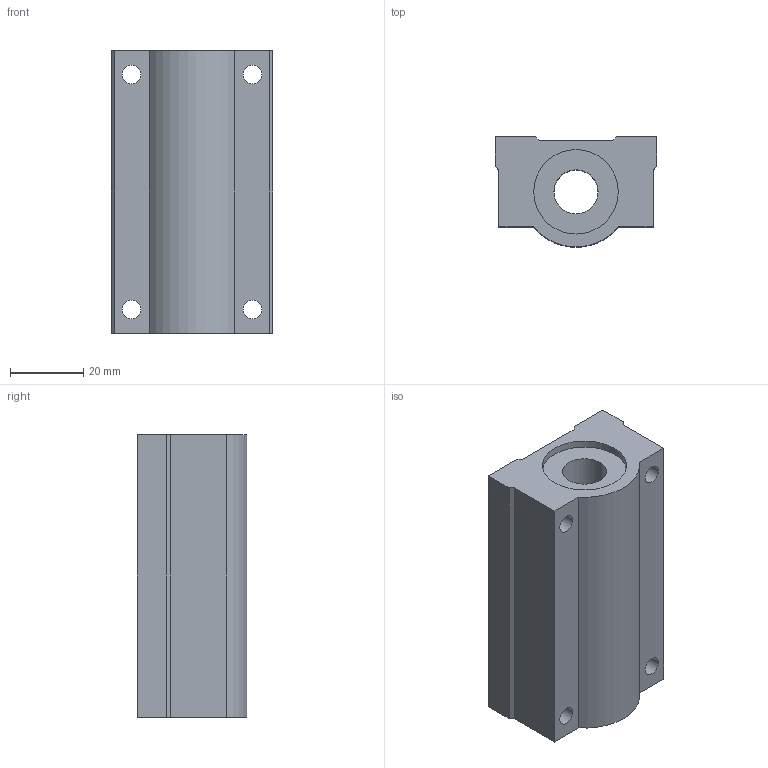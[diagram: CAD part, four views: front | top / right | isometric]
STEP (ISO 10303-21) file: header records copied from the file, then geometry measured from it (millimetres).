
FILE_DESCRIPTION((''),'2;1');
FILE_NAME('C:\Documents and Settings\ｿﾀﾀ蠑ｷ1\ｹﾙﾅﾁ ﾈｭｸ饅\ｺﾎﾇｰﾆﾄﾀﾏ\ﾁｦﾇｰ\SCE__WUU\SCE12WUU.stp','2005-06-22T15:47:25',('ｿﾀﾀ蠑ｷ1'),(''),'Autodesk Inventor 9','Autodesk Inventor 9','');
FILE_SCHEMA(('AUTOMOTIVE_DESIGN { 1 0 10303 214 1 1 1 1 }'));
Length unit declared in the file: millimetre
Products named in the file (1): SCE__UU
Bounding box: 44 x 29.95 x 77 mm (x, y, z)
Volume: 73923.2 mm3; surface area: 17203.7 mm2
Topology: 1 solids, 1 shells, 32 faces, 84 edges, 56 vertices
Faces by surface type: plane 17, bspline 8, cylinder 7
Entity records: 1145 total; most frequent: CARTESIAN_POINT 309, ORIENTED_EDGE 168, DIRECTION 164, EDGE_CURVE 84, VERTEX_POINT 56, AXIS2_PLACEMENT_3D 55, VECTOR 54, LINE 54
